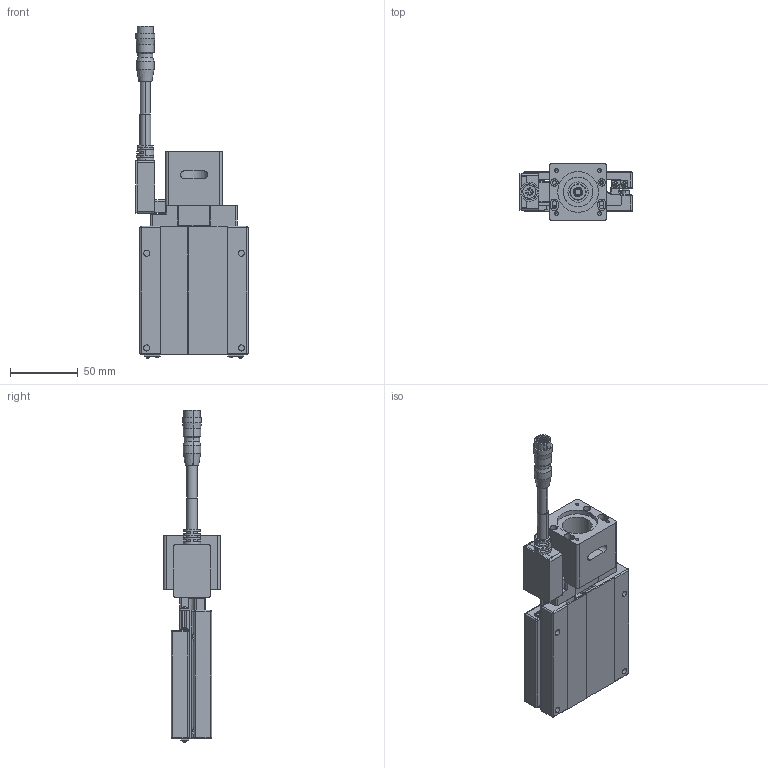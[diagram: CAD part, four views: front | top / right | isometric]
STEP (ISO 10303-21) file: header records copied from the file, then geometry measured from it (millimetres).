
FILE_DESCRIPTION (( 'STEP AP203' ), '1' );
FILE_NAME ('CXS8030(伺服P無馬達).STEP', '2023-12-12T00:45:12', ( '' ), ( '' ), 'SwSTEP 2.0', 'SolidWorks 2019', '' );
FILE_SCHEMA (( 'CONFIG_CONTROL_DESIGN' ));
Length unit declared in the file: millimetre
Products named in the file (6): 伺服馬達轉接板(P.C.D 45).step_GMT; Group2^CXS8030(伺服P無馬達)_defeature_GMT; Group1^CXS8030(伺服P無馬達)_defeature_GMT; HR10A-10J-12P; CXS8030(伺服P無馬達); 伺服馬達轉接軸.step_GMT
Assembly tree (5 placements, depth 2):
  CXS8030(伺服P無馬達)
    Group1^CXS8030(伺服P無馬達)_defeature_GMT
    Group2^CXS8030(伺服P無馬達)_defeature_GMT
    伺服馬達轉接軸.step_GMT
    伺服馬達轉接板(P.C.D 45).step_GMT
    HR10A-10J-12P
Bounding box: 83 x 42 x 245.49 mm (x, y, z)
Volume: 219270.5 mm3; surface area: 85862.7 mm2
Topology: 23 solids, 24 shells, 1824 faces, 4791 edges, 3021 vertices
Faces by surface type: plane 1043, cylinder 483, cone 136, sphere 70, bspline 69, torus 23
Entity records: 58813 total; most frequent: CARTESIAN_POINT 13567, DIRECTION 9339, ORIENTED_EDGE 9278, EDGE_CURVE 4639, AXIS2_PLACEMENT_3D 3202, VERTEX_POINT 2967, LINE 2935, VECTOR 2935
